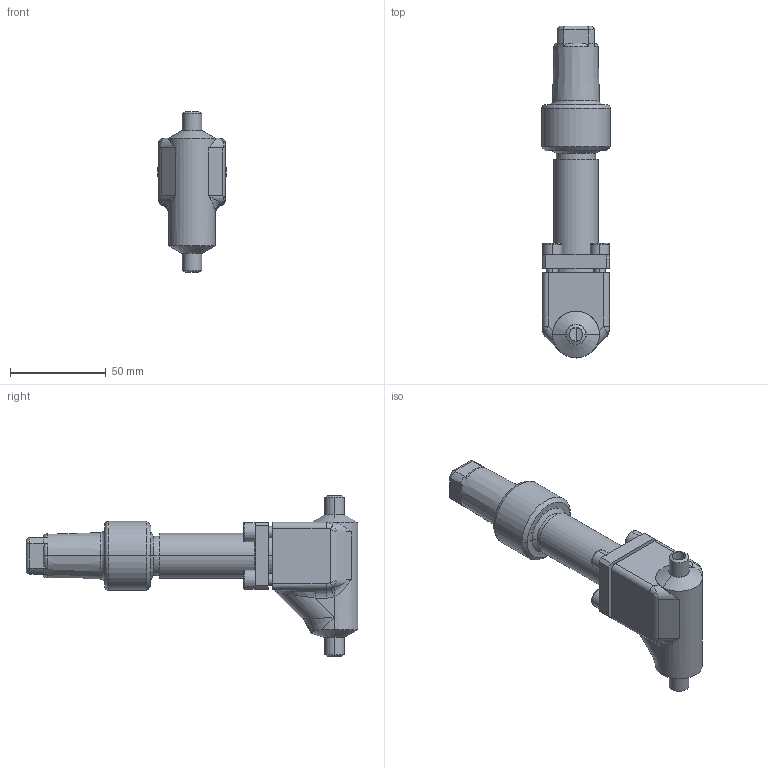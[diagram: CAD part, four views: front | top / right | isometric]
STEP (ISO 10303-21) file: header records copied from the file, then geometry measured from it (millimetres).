
FILE_DESCRIPTION (( 'STEP AP214' ), '1' );
FILE_NAME ('AVR96310-DN006_R1_PS40.STEP', '2006-05-02T07:51:15', ( 'Herr Grams' ), ( 'AWP GmbH' ), 'SwSTEP 2.0', 'SolidWorks 2002296', '' );
FILE_SCHEMA (( 'AUTOMOTIVE_DESIGN' ));
Length unit declared in the file: millimetre
Products named in the file (6): AVR96310-DN006_R1_PS40; AVR96310E10_Deck+Schr-DN6-15_Standard; Deckel96310E10-DN6-15_PS40_Standard; Zylinderschraube-DIN912_M 6x 18; Gehäuse96300E06-DN06_PS40_R1_Standard; Kappe96300E10_DN6-20_Standard
Assembly tree (8 placements, depth 3):
  AVR96310-DN006_R1_PS40
    Kappe96300E10_DN6-20_Standard
    AVR96310E10_Deck+Schr-DN6-15_Standard
      Zylinderschraube-DIN912_M 6x 18  x4
      Deckel96310E10-DN6-15_PS40_Standard
    Gehäuse96300E06-DN06_PS40_R1_Standard
Bounding box: 36 x 173.2 x 84 mm (x, y, z)
Volume: 118572.5 mm3; surface area: 37841.8 mm2
Topology: 7 solids, 7 shells, 246 faces, 565 edges, 347 vertices
Faces by surface type: cylinder 89, plane 86, cone 27, torus 23, bspline 21
Entity records: 15441 total; most frequent: CARTESIAN_POINT 10523, DIRECTION 892, ORIENTED_EDGE 890, EDGE_CURVE 445, AXIS2_PLACEMENT_3D 366, VERTEX_POINT 275, EDGE_LOOP 218, ADVANCED_FACE 192
